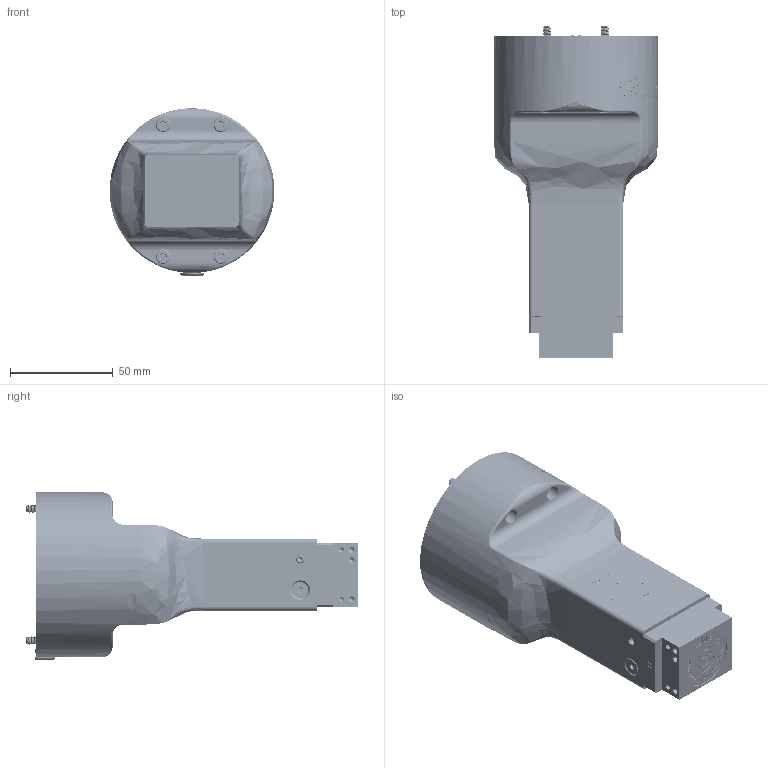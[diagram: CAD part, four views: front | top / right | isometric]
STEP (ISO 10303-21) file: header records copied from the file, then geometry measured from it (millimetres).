
FILE_DESCRIPTION (( 'STEP AP203' ), '1' );
FILE_NAME ('P-80001484 E30 Tool Only_p.STEP', '2021-10-07T22:18:09', ( '' ), ( '' ), 'SwSTEP 2.0', 'SolidWorks 2018', '' );
FILE_SCHEMA (( 'CONFIG_CONTROL_DESIGN' ));
Products named in the file (1): P-80001484 E30 Tool Only_p
Bounding box: 79.95 x 161.1 x 81.3 mm (x, y, z)
Volume: 150970.3 mm3; surface area: 91647.3 mm2
Topology: 22 solids, 22 shells, 3399 faces, 9242 edges, 6037 vertices
Faces by surface type: cylinder 1364, plane 1121, bspline 696, cone 198, torus 20
Entity records: 166436 total; most frequent: CARTESIAN_POINT 91463, ORIENTED_EDGE 18364, DIRECTION 11874, EDGE_CURVE 9182, VERTEX_POINT 6037, VECTOR 4444, LINE 4444, AXIS2_PLACEMENT_3D 3715
